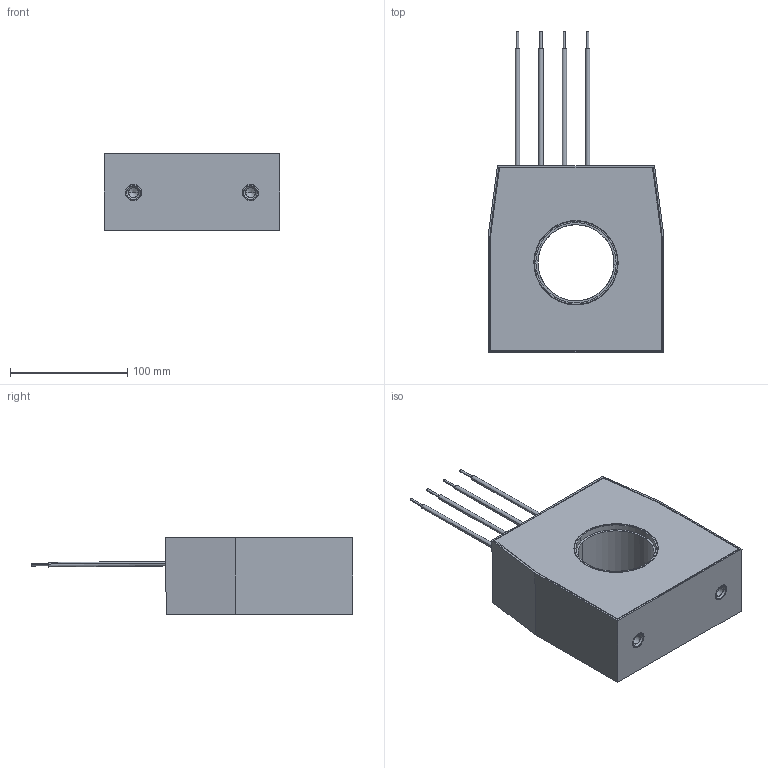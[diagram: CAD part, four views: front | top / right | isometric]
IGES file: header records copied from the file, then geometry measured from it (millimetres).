
Start section: IGES file generated from Kompas f.0 for Windows drawing by the IGES translator from Ascon Ltd., translator version IGESOUT-5.1.
Global section: file name: C:\Ðàáîòà\Èçâåùåíèÿ 5\ÒØÏ-ÍÒÇ-0.66-61...,71...,81... (ñáîðíûé)\Âåðñèÿ îò 21.05.24\3D ìîäåëü\ÒØÏ-ÍÒÇ-0,66-81Ñ\ÒØÏ-ÍÒÇ-0,66-81Ñ (65 ìì, 1-é ãàáàðèò).igs; native system: Kompas( 32 bit ) for Windows; preprocessor: 1.0; author: 123; organization: Microsoft; date: -17750727:094447; units: millimetre
Bounding box: 150 x 274.81 x 65 mm (x, y, z)
Volume: 336508.2 mm3; surface area: 197080.6 mm2
Topology: 9 solids, 9 shells, 153 faces, 335 edges, 211 vertices
Faces by surface type: revolution 88, bspline 65
